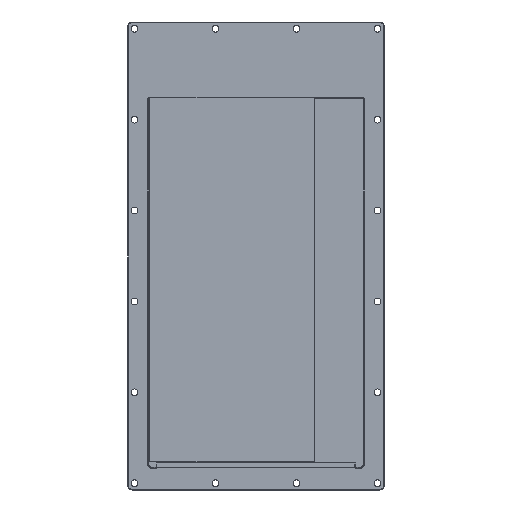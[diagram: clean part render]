
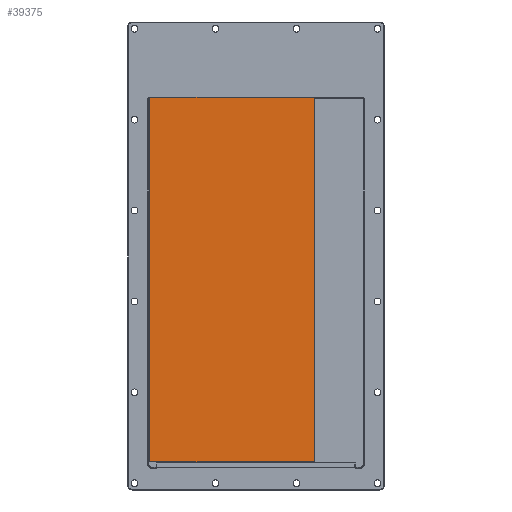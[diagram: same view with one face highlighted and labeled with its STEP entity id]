
A CAD part, front view. The second image highlights one B-rep face of the part: STEP entity #39375.
In plain terms, the highlighted planar face has unit normal (0, -1, 0).
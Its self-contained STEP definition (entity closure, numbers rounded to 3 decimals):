
#228 = ORIENTED_EDGE ( 'NONE', *, *, #66640, .T. ) ;
#5660 = LINE ( 'NONE', #27185, #83807 ) ;
#8764 = CARTESIAN_POINT ( 'NONE',  ( 91.5, -15.5, -173.5 ) ) ;
#10302 = ORIENTED_EDGE ( 'NONE', *, *, #41490, .T. ) ;
#12038 = CARTESIAN_POINT ( 'NONE',  ( -91.5, -15.5, -173.5 ) ) ;
#13505 = DIRECTION ( 'NONE',  ( -1., 0., 0. ) ) ;
#13562 = VERTEX_POINT ( 'NONE', #12038 ) ;
#13786 = DIRECTION ( 'NONE',  ( 0., 1., 0. ) ) ;
#14849 = VERTEX_POINT ( 'NONE', #59614 ) ;
#15252 = LINE ( 'NONE', #88251, #68151 ) ;
#19676 = PLANE ( 'NONE',  #34129 ) ;
#24448 = VERTEX_POINT ( 'NONE', #59228 ) ;
#27185 = CARTESIAN_POINT ( 'NONE',  ( 91.5, -15.5, 231.5 ) ) ;
#34129 = AXIS2_PLACEMENT_3D ( 'NONE', #35782, #13786, #87282 ) ;
#35782 = CARTESIAN_POINT ( 'NONE',  ( 0., -15.5, 0. ) ) ;
#37288 = ORIENTED_EDGE ( 'NONE', *, *, #80571, .T. ) ;
#38136 = DIRECTION ( 'NONE',  ( 1., 0., 0. ) ) ;
#39375 = ADVANCED_FACE ( 'NONE', ( #69152 ), #19676, .F. ) ;
#41490 = EDGE_CURVE ( 'NONE', #13562, #24448, #96980, .T. ) ;
#44324 = VERTEX_POINT ( 'NONE', #46742 ) ;
#45432 = EDGE_CURVE ( 'NONE', #14849, #13562, #62762, .T. ) ;
#46742 = CARTESIAN_POINT ( 'NONE',  ( 91.5, -15.5, 231.5 ) ) ;
#49048 = CARTESIAN_POINT ( 'NONE',  ( -91.5, -15.5, 231.5 ) ) ;
#59228 = CARTESIAN_POINT ( 'NONE',  ( 91.5, -15.5, -173.5 ) ) ;
#59614 = CARTESIAN_POINT ( 'NONE',  ( -91.5, -15.5, 231.5 ) ) ;
#59621 = VECTOR ( 'NONE', #38136, 1000. ) ;
#62762 = LINE ( 'NONE', #49048, #73234 ) ;
#63600 = EDGE_LOOP ( 'NONE', ( #37288, #228, #80624, #10302 ) ) ;
#66640 = EDGE_CURVE ( 'NONE', #44324, #14849, #5660, .T. ) ;
#67155 = DIRECTION ( 'NONE',  ( 0., 0., 1. ) ) ;
#68151 = VECTOR ( 'NONE', #67155, 1000. ) ;
#69152 = FACE_OUTER_BOUND ( 'NONE', #63600, .T. ) ;
#73234 = VECTOR ( 'NONE', #78937, 1000. ) ;
#78937 = DIRECTION ( 'NONE',  ( 0., 0., -1. ) ) ;
#80571 = EDGE_CURVE ( 'NONE', #24448, #44324, #15252, .T. ) ;
#80624 = ORIENTED_EDGE ( 'NONE', *, *, #45432, .T. ) ;
#83807 = VECTOR ( 'NONE', #13505, 1000. ) ;
#87282 = DIRECTION ( 'NONE',  ( 0., 0., 1. ) ) ;
#88251 = CARTESIAN_POINT ( 'NONE',  ( 91.5, -15.5, 231.5 ) ) ;
#96980 = LINE ( 'NONE', #8764, #59621 ) ;
